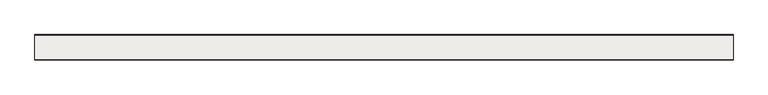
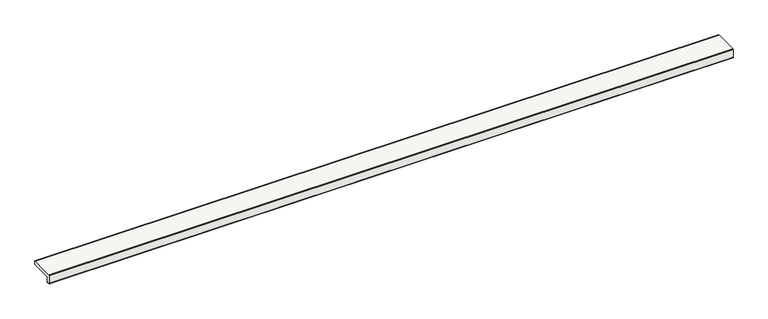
"""IFC4 building model written with IfcOpenShell, lengths in millimetres: slab geometry, ROSA GRES_L62 : Pieza L62_Mistery_Grey_Anti-Slip."""

from ifc_helpers import new_model, si_unit, point, frame, frame_2d, origin, place, context, project, spatial, polyline, circle_curve, trimmed, segment, composite_curve, outline, extrude, source, transform, mapped, element, save


def slab_2f734ad2(model_context):
    return source(origin(), model_context, "Body", "SweptSolid", [
        extrude(outline(composite_curve([segment(polyline([(12.1001991, -37.0), (9.4054777, -37.0)]), True, "CONTINUOUS"), segment(trimmed(circle_curve(frame_2d((7.4142134, -37.0)), 1.9912643), [point((9.4054777, -37.0))], [point((5.422949, -37.0))], True, "CARTESIAN"), True, "CONTINUOUS"), segment(polyline([(5.422949, -37.0), (2.5, -37.0)]), True, "CONTINUOUS"), segment(trimmed(circle_curve(frame_2d((2.5, -34.5)), 2.5), [point((2.5, -37.0))], [point((0.0, -34.5))], False, "CARTESIAN"), True, "CONTINUOUS"), segment(polyline([(0.0, -34.5), (0.0, -2.5), (2.5, 0.0), (97.5, 0.0), (100.0, -0.0284738), (100.0, -13.9413919), (16.6422322, -13.9413919)]), True, "CONTINUOUS"), segment(trimmed(circle_curve(frame_2d((16.6422322, -16.5836242)), 2.6422322), [point((16.6422322, -13.9413919))], [point((14.0, -16.5836242))], True, "CARTESIAN"), True, "CONTINUOUS"), segment(polyline([(14.0, -16.5836242), (14.0, -35.1001991)]), True, "CONTINUOUS"), segment(trimmed(circle_curve(frame_2d((12.1001991, -35.1001991)), 1.8998009), [point((14.0, -35.1001991))], [point((12.1001991, -37.0))], False, "CARTESIAN"), True, "CONTINUOUS")], self_intersect=False)), frame((0.0, 0.0, 0.0), z_axis=(1.0, 0.0, 0.0), x_axis=(0.0, 1.0, 0.0)), (0.0, 0.0, 1.0), 2755.7122559),
    ])


if __name__ == "__main__":
    model = new_model("IFC4")
    model_context = context("Model", 3, world=origin())
    ifc_project = project(units=[si_unit("LENGTHUNIT", "METRE", prefix="MILLI")], contexts=[model_context])
    site = spatial("IfcSite", under=ifc_project)
    building = spatial("IfcBuilding", under=site)
    placement = place(None, origin())
    slab_shape = slab_2f734ad2(model_context)
    element("IfcSlab", 1, ObjectType="ROSA GRES_L62 : Pieza L62_Mistery_Grey_Anti-Slip", at=placement, inside=building, context=model_context, shape_type="MappedRepresentation", body=[
        mapped(slab_shape, transform((0.0, 0.0, 0.0), x_axis=(1.0, 0.0, 0.0), y_axis=(0.0, 1.0, 0.0), z_axis=(0.0, 0.0, 1.0))),
    ])
    save(model, "model.ifc")
